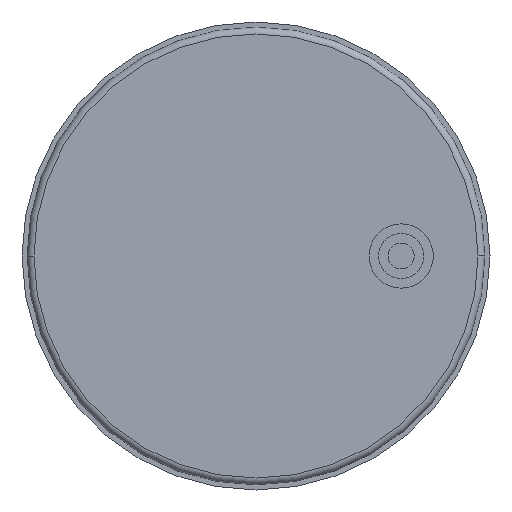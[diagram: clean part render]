
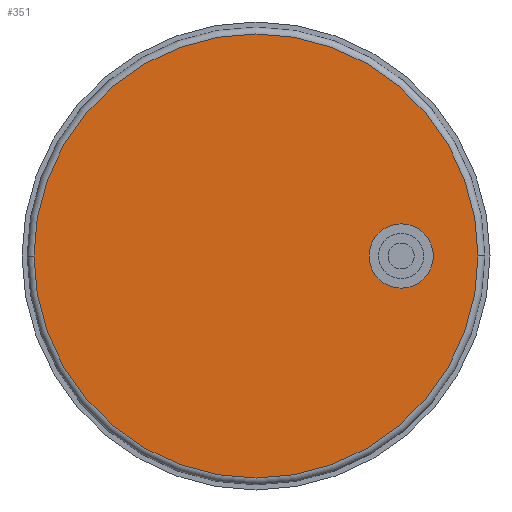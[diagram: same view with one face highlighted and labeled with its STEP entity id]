
A CAD part, left-side view. The second image highlights one B-rep face of the part: STEP entity #351.
In plain terms, the highlighted planar face has unit normal (-1, 0, 0).
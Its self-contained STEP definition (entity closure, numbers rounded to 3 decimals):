
#31 = EDGE_CURVE ( 'NONE', #496, #57, #685, .T. ) ;
#56 = CIRCLE ( 'NONE', #1021, 32.5 ) ;
#57 = VERTEX_POINT ( 'NONE', #452 ) ;
#111 = FACE_OUTER_BOUND ( 'NONE', #247, .T. ) ;
#119 = DIRECTION ( 'NONE',  ( 0., 1., 0. ) ) ;
#167 = CARTESIAN_POINT ( 'NONE',  ( 0., -21.25, 0. ) ) ;
#185 = EDGE_LOOP ( 'NONE', ( #769, #547 ) ) ;
#247 = EDGE_LOOP ( 'NONE', ( #383, #842 ) ) ;
#248 = AXIS2_PLACEMENT_3D ( 'NONE', #879, #708, #559 ) ;
#279 = PLANE ( 'NONE',  #390 ) ;
#286 = DIRECTION ( 'NONE',  ( 1., 0., 0. ) ) ;
#331 = DIRECTION ( 'NONE',  ( 0., -1., 0. ) ) ;
#351 = ADVANCED_FACE ( 'PLANAR_3', ( #993, #111 ), #279, .T. ) ;
#383 = ORIENTED_EDGE ( 'NONE', *, *, #697, .F. ) ;
#390 = AXIS2_PLACEMENT_3D ( 'NONE', #985, #920, #524 ) ;
#393 = CIRCLE ( 'NONE', #626, 4.7 ) ;
#452 = CARTESIAN_POINT ( 'NONE',  ( 0., 32.5, 0. ) ) ;
#466 = VERTEX_POINT ( 'NONE', #690 ) ;
#496 = VERTEX_POINT ( 'NONE', #534 ) ;
#518 = AXIS2_PLACEMENT_3D ( 'NONE', #1002, #286, #610 ) ;
#524 = DIRECTION ( 'NONE',  ( 0., -1., 0. ) ) ;
#534 = CARTESIAN_POINT ( 'NONE',  ( 0., -32.5, 0. ) ) ;
#543 = EDGE_CURVE ( 'NONE', #733, #466, #393, .T. ) ;
#547 = ORIENTED_EDGE ( 'NONE', *, *, #896, .F. ) ;
#559 = DIRECTION ( 'NONE',  ( 0., -1., 0. ) ) ;
#581 = CARTESIAN_POINT ( 'NONE',  ( 0., 0., 0. ) ) ;
#593 = DIRECTION ( 'NONE',  ( 1., 0., 0. ) ) ;
#610 = DIRECTION ( 'NONE',  ( 0., 1., 0. ) ) ;
#617 = CIRCLE ( 'NONE', #248, 4.7 ) ;
#626 = AXIS2_PLACEMENT_3D ( 'NONE', #167, #640, #331 ) ;
#640 = DIRECTION ( 'NONE',  ( -1., 0., 0. ) ) ;
#685 = CIRCLE ( 'NONE', #518, 32.5 ) ;
#690 = CARTESIAN_POINT ( 'NONE',  ( 0., -21.25, 4.7 ) ) ;
#697 = EDGE_CURVE ( 'NONE', #57, #496, #56, .T. ) ;
#708 = DIRECTION ( 'NONE',  ( -1., 0., 0. ) ) ;
#733 = VERTEX_POINT ( 'NONE', #831 ) ;
#769 = ORIENTED_EDGE ( 'NONE', *, *, #543, .F. ) ;
#831 = CARTESIAN_POINT ( 'NONE',  ( 0., -21.25, -4.7 ) ) ;
#842 = ORIENTED_EDGE ( 'NONE', *, *, #31, .F. ) ;
#879 = CARTESIAN_POINT ( 'NONE',  ( 0., -21.25, 0. ) ) ;
#896 = EDGE_CURVE ( 'NONE', #466, #733, #617, .T. ) ;
#920 = DIRECTION ( 'NONE',  ( -1., 0., 0. ) ) ;
#985 = CARTESIAN_POINT ( 'NONE',  ( 0., 0., 0. ) ) ;
#993 = FACE_BOUND ( 'NONE', #185, .T. ) ;
#1002 = CARTESIAN_POINT ( 'NONE',  ( 0., 0., 0. ) ) ;
#1021 = AXIS2_PLACEMENT_3D ( 'NONE', #581, #593, #119 ) ;
